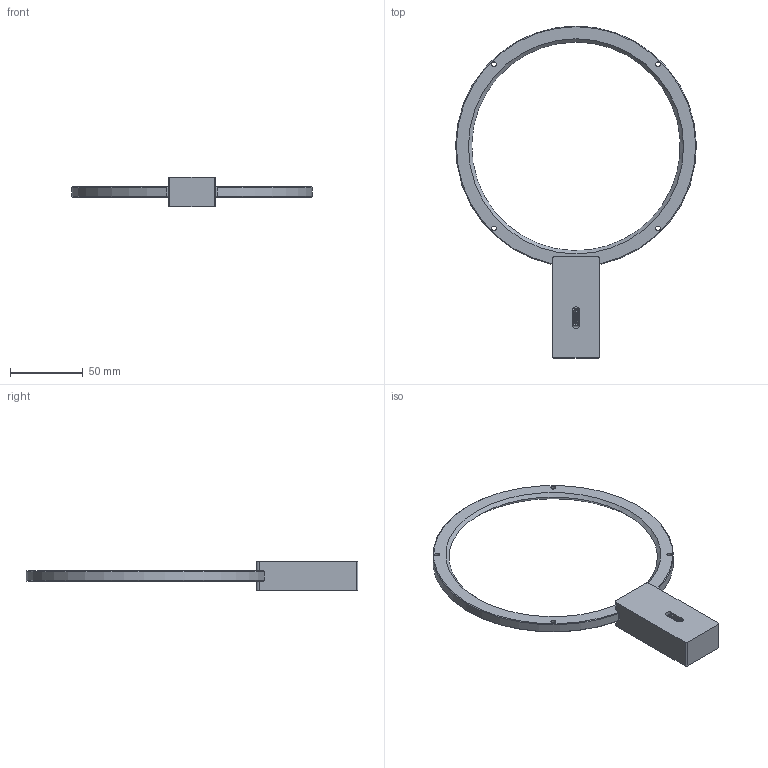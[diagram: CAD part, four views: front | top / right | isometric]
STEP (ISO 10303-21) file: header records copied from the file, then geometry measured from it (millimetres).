
FILE_DESCRIPTION (( 'STEP AP214' ), '1' );
FILE_NAME ('LRHA-160-WH.STEP', '2026-02-04T07:01:30', ( '' ), ( '' ), 'SwSTEP 2.0', 'SolidWorks 2022', '' );
FILE_SCHEMA (( 'AUTOMOTIVE_DESIGN' ));
Length unit declared in the file: millimetre
Products named in the file (1): LRHA-160-WH
Bounding box: 165.97 x 228.89 x 20 mm (x, y, z)
Volume: 74823.1 mm3; surface area: 23731.9 mm2
Topology: 1 solids, 1 shells, 159 faces, 411 edges, 269 vertices
Faces by surface type: plane 142, cylinder 13, cone 4
Full cylindrical faces by diameter (mm): 3.3 x4
Entity records: 6126 total; most frequent: CARTESIAN_POINT 851, ORIENTED_EDGE 808, DIRECTION 750, EDGE_CURVE 404, VECTOR 368, LINE 368, VERTEX_POINT 268, EDGE_LOOP 192
